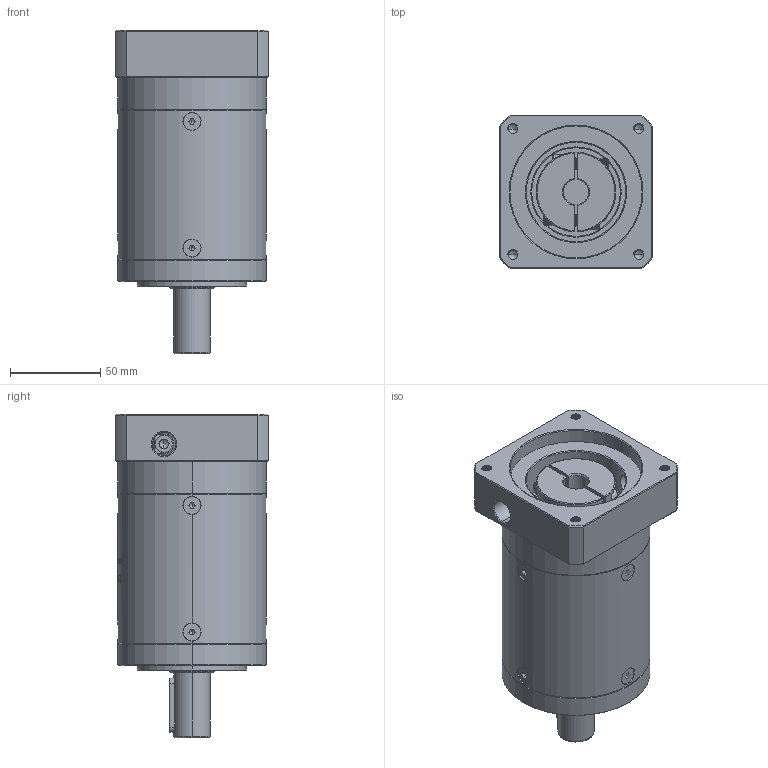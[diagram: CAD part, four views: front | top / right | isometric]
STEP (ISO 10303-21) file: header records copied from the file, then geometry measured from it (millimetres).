
FILE_DESCRIPTION (( 'STEP AP214' ), '1' );
FILE_NAME ('ZE80-D20-L3-14-73-69.5X69.5-M6.step', '2022-05-08T05:52:03', ( '' ), ( 'Microsoft' ), 'SwSTEP 2.0', 'SolidWorks 2016', '' );
FILE_SCHEMA (( 'AUTOMOTIVE_DESIGN' ));
Length unit declared in the file: millimetre
Products named in the file (1): ZE80-D20-L3-14-73-69.5X69.5-M6
Bounding box: 85 x 85 x 179 mm (x, y, z)
Volume: 723382.7 mm3; surface area: 95463.6 mm2
Topology: 13 solids, 13 shells, 2065 faces, 5371 edges, 3395 vertices
Faces by surface type: plane 891, cylinder 500, bspline 332, cone 325, torus 17
Entity records: 118351 total; most frequent: CARTESIAN_POINT 49411, ORIENTED_EDGE 10666, DIRECTION 8193, EDGE_CURVE 5333, VERTEX_POINT 3395, LINE 2861, VECTOR 2861, AXIS2_PLACEMENT_3D 2666
